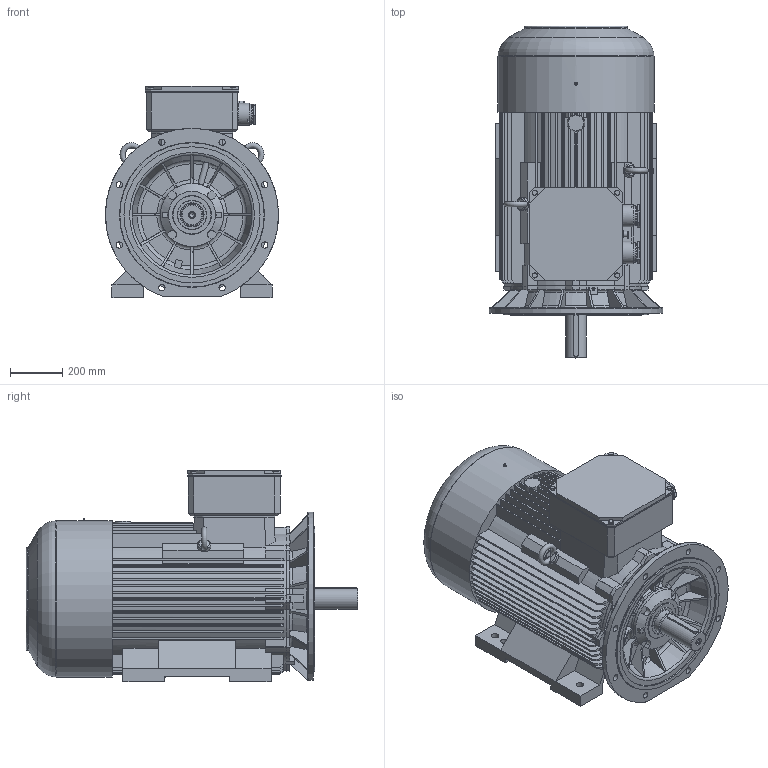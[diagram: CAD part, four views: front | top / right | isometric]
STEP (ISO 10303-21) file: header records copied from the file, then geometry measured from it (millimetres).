
FILE_DESCRIPTION(/* description */ ('Unknown'),/* implementation_level */ '2;1');
FILE_NAME(/* name */ '3SIEL315S4_8, M4A_B, 6A, 8A_B',/* time_stamp */ '2021-04-15T07:34:52+02:00',/* author */ ('Unknown'),/* organization */ ('Unknown'),/* preprocessor_version */ 'ST-DEVELOPER v16.7',/* originating_system */ 'DEX',/* authorisation */ $);
FILE_SCHEMA (('AUTOMOTIVE_DESIGN {1 0 10303 214 3 1 1}'));
Length unit declared in the file: millimetre
Products named in the file (1): 3SIEL315S4_8, M4A_B, 6A, 8A_B
Bounding box: 660 x 1264.99 x 804.5 mm (x, y, z)
Volume: 271941118.1 mm3; surface area: 6880052.8 mm2
Topology: 2 solids, 21 shells, 1307 faces, 3513 edges, 2301 vertices
Faces by surface type: plane 819, cylinder 256, cone 108, torus 108, bspline 16
Full cylindrical faces by diameter (mm): 1.6 x2, 4.917 x2, 5 x4, 8 x1, 10.106 x8, 13.835 x1, 16.63 x4, 17.294 x1, 19.6 x2, 20 x1, 20.752 x4, 21 x1, 22 x1, 24 x8, 28 x6, 36 x1, 50 x2, 55 x2, 57 x4, 65 x4, 70 x2, 71 x6, 72 x2, 72.752 x2, 76 x2, 79.999 x1, 85 x2, 86.5 x1, 89.5 x1, 90 x2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
Entity records: 49653 total; most frequent: CARTESIAN_POINT 9531, ORIENTED_EDGE 6544, DIRECTION 6380, EDGE_CURVE 3272, VERTEX_POINT 2239, AXIS2_PLACEMENT_3D 2221, LINE 1938, VECTOR 1938
